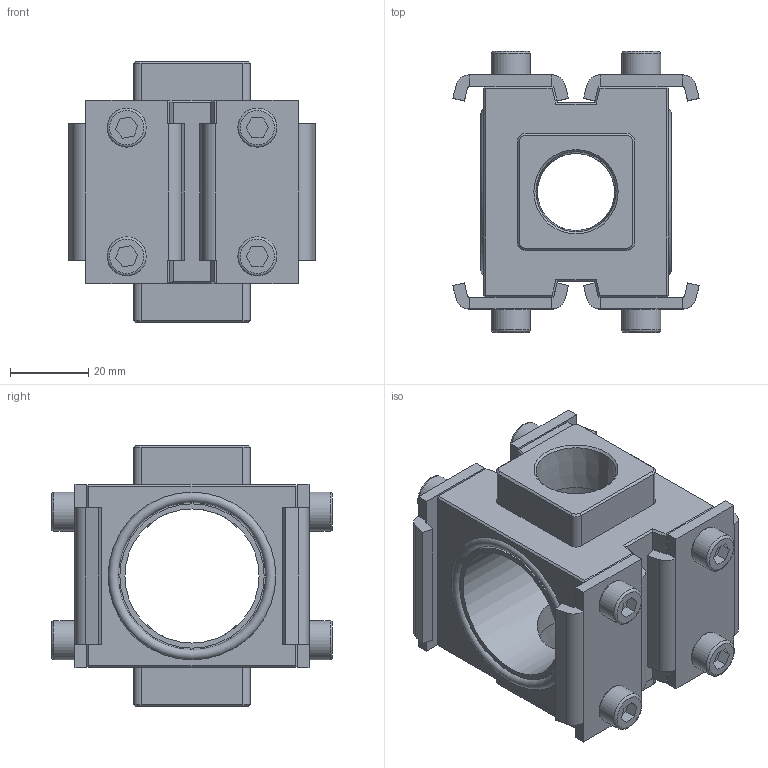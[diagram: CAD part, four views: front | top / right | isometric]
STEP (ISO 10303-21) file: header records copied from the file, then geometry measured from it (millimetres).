
FILE_DESCRIPTION(/* description */ ('Unknown'),/* implementation_level */ '2;1');
FILE_NAME(/* name */ 'T15-MAMG45',/* time_stamp */ '2021-01-07T13:49:59+08:00',/* author */ ('Unknown'),/* organization */ ('Unknown'),/* preprocessor_version */ 'ST-DEVELOPER v16.7',/* originating_system */ 'DEX',/* authorisation */ $);
FILE_SCHEMA (('AUTOMOTIVE_DESIGN {1 0 10303 214 3 1 1}'));
Length unit declared in the file: millimetre
Products named in the file (1): T15-MAMG45
Bounding box: 63.15 x 72 x 67 mm (x, y, z)
Volume: 99502.4 mm3; surface area: 32090.9 mm2
Topology: 1 solids, 1 shells, 275 faces, 675 edges, 424 vertices
Faces by surface type: plane 208, cylinder 37, torus 18, cone 12
Full cylindrical faces by diameter (mm): 10 x8, 19.793 x2, 34.4 x1, 37 x2, 43 x4
Entity records: 9793 total; most frequent: CARTESIAN_POINT 1510, DIRECTION 1276, ORIENTED_EDGE 1252, EDGE_CURVE 626, LINE 524, VECTOR 524, VERTEX_POINT 414, AXIS2_PLACEMENT_3D 376
